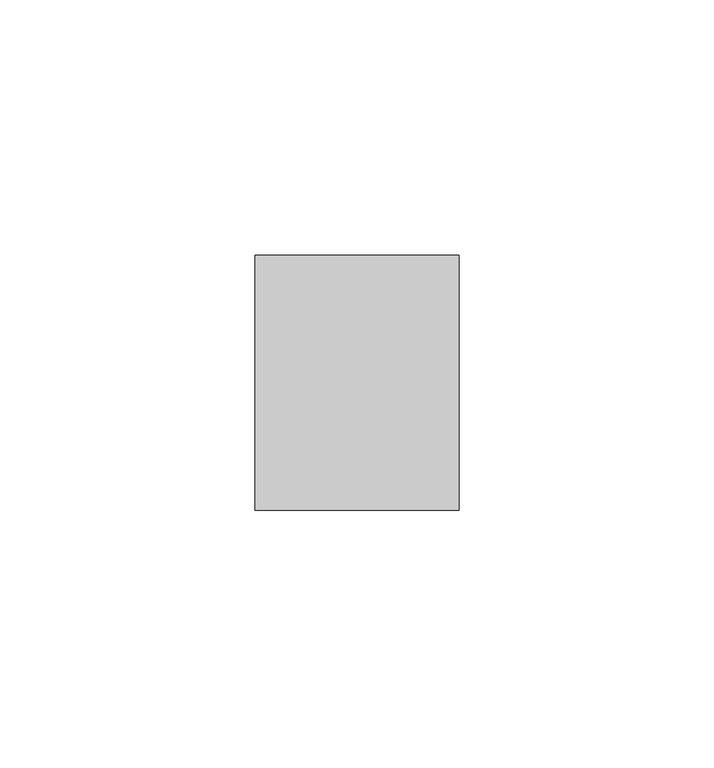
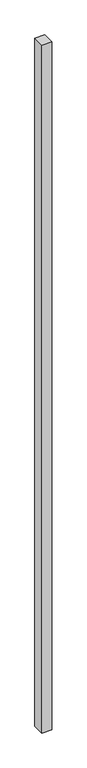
"""IFC4 building model written with IfcOpenShell, lengths in millimetres: member geometry, Прямоугольный импост : 40х50."""

from ifc_helpers import new_model, si_unit, frame, origin, place, context, project, spatial, polyline, outline, extrude, source, transform, mapped, element, save


def member_1faf538f(model_context):
    return source(origin(), model_context, "Body", "SweptSolid", [
        extrude(outline(polyline([(0.0, 0.0), (0.0, -50.0), (-40.0, -50.0), (-40.0, 0.0), (0.0, 0.0)])), frame((0.0, 0.0, -3000.0), z_axis=(0.0, 0.0, 1.0), x_axis=(1.0, 0.0, 0.0)), (0.0, 0.0, 1.0), 3000.0),
    ])


if __name__ == "__main__":
    model = new_model("IFC4")
    model_context = context("Model", 3, world=origin())
    ifc_project = project(units=[si_unit("LENGTHUNIT", "METRE", prefix="MILLI")], contexts=[model_context])
    site = spatial("IfcSite", under=ifc_project)
    building = spatial("IfcBuilding", under=site)
    placement = place(None, origin())
    member_shape = member_1faf538f(model_context)
    element("IfcMember", 1, ObjectType="Прямоугольный импост : 40х50", at=placement, inside=building, context=model_context, shape_type="MappedRepresentation", body=[
        mapped(member_shape, transform((0.0, 0.0, 0.0), x_axis=(1.0, 0.0, 0.0), y_axis=(0.0, 1.0, 0.0), z_axis=(0.0, 0.0, 1.0))),
    ])
    save(model, "model.ifc")
